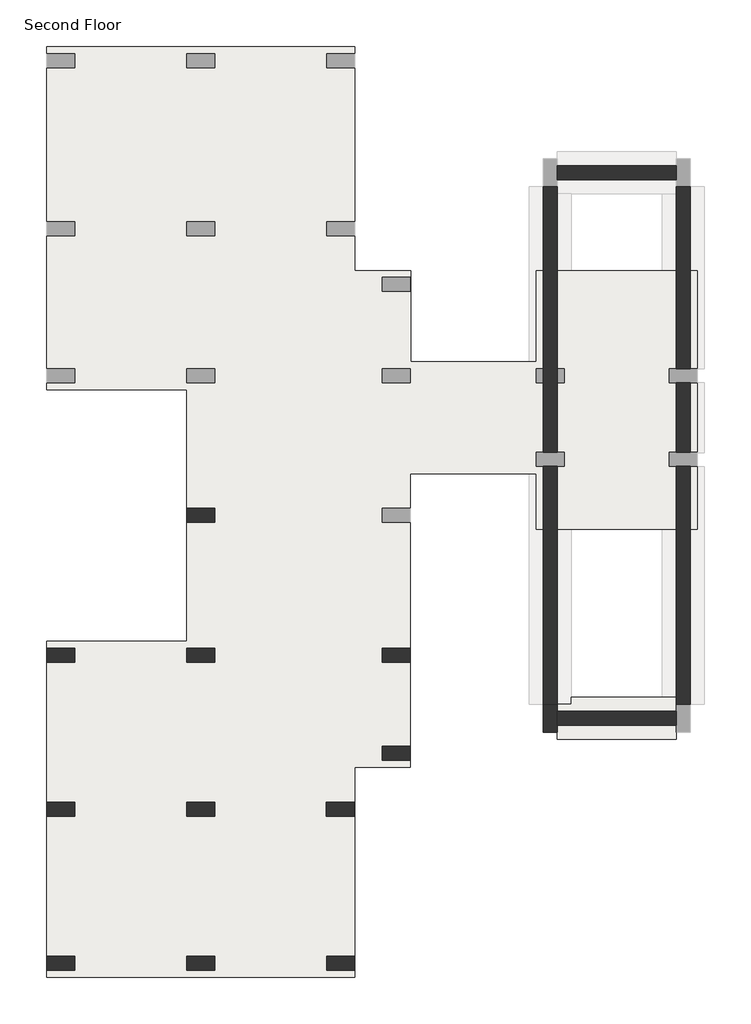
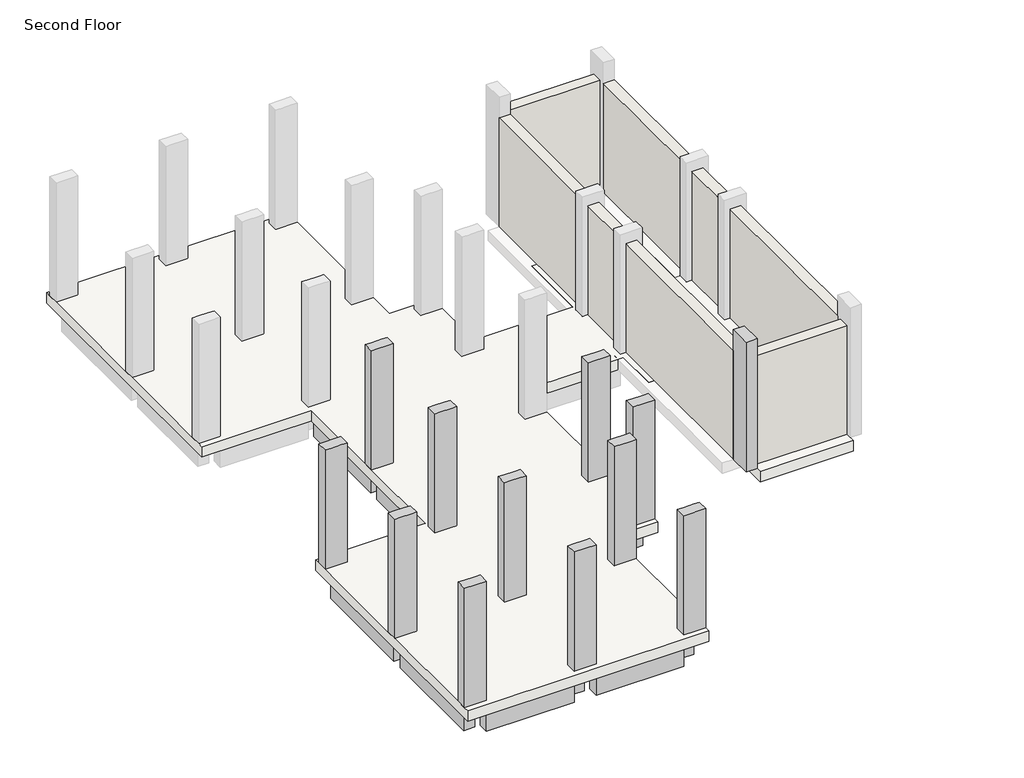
# One storey, part 1 of 2: 17 beams, 12 columns, 7 walls, 1 footing, 1 slab.
"""IFC4 building model written with IfcOpenShell, lengths in millimetres."""

from ifc_helpers import new_model, si_unit, frame, origin, place, context, project, spatial, polyline, outline, extrude, faceted_brep, element, save

model = new_model("IFC4")

# Units and contexts
model_context = context("Model", 3, world=origin())
ifc_project = project(units=[si_unit("LENGTHUNIT", "METRE", prefix="MILLI")], contexts=[model_context])

# Site, building, storey
site = spatial("IfcSite", under=ifc_project)
building = spatial("IfcBuilding", under=site)
storey = spatial("IfcBuildingStorey", under=building, Name="Second Floor", Elevation=3810.0)

# Beams
placement = place(None, origin())
element("IfcBeam", 1, ObjectType="Concrete-Rectangular Beam : 12 x 24", at=placement, inside=storey, context=model_context, shape_type="SweptSolid", body=[
    extrude(outline(polyline([(-10270.7073204, 16606.2572372), (-9965.9073204, 16606.2572372), (-9965.9073204, 13863.0572372), (-10270.7073204, 13863.0572372), (-10270.7073204, 16606.2572372)])), frame((0.0, 0.0, 2895.6), z_axis=(0.0, 0.0, 1.0), x_axis=(1.0, 0.0, 0.0)), (0.0, 0.0, 1.0), 609.6),
])
element("IfcBeam", 2, ObjectType="Concrete-Rectangular Beam : 12 x 24", at=placement, inside=storey, context=model_context, shape_type="SweptSolid", body=[
    extrude(outline(polyline([(-10270.7073204, 13558.2572372), (-9965.9073204, 13558.2572372), (-9965.9073204, 10815.0572372), (-10270.7073204, 10815.0572372), (-10270.7073204, 13558.2572372)])), frame((0.0, 0.0, 2895.6), z_axis=(0.0, 0.0, 1.0), x_axis=(1.0, 0.0, 0.0)), (0.0, 0.0, 1.0), 609.6),
])
element("IfcBeam", 3, ObjectType="Concrete-Rectangular Beam : 12 x 24", at=placement, inside=storey, context=model_context, shape_type="SweptSolid", body=[
    extrude(outline(polyline([(-9813.5073204, 10510.2572372), (-9813.5073204, 10815.0572372), (-6156.6500241, 10815.0572372), (-6156.6500241, 10510.2572372), (-9813.5073204, 10510.2572372)])), frame((0.0, 0.0, 2895.6), z_axis=(0.0, 0.0, 1.0), x_axis=(1.0, 0.0, 0.0)), (0.0, 0.0, 1.0), 609.6),
])
element("IfcBeam", 4, ObjectType="Concrete-Rectangular Beam : 12 x 24", at=placement, inside=storey, context=model_context, shape_type="SweptSolid", body=[
    extrude(outline(polyline([(-6156.6500241, 13863.0572372), (-6156.6500241, 13558.2572372), (-9813.5073204, 13558.2572372), (-9813.5073204, 13863.0572372), (-6156.6500241, 13863.0572372)])), frame((0.0, 0.0, 2895.6), z_axis=(0.0, 0.0, 1.0), x_axis=(1.0, 0.0, 0.0)), (0.0, 0.0, 1.0), 609.6),
])
element("IfcBeam", 5, ObjectType="Concrete-Rectangular Beam : 12 x 24", at=placement, inside=storey, context=model_context, shape_type="SweptSolid", body=[
    extrude(outline(polyline([(-12861.5073204, 10510.2572372), (-12861.5073204, 10815.0572372), (-10423.1073204, 10815.0572372), (-10423.1073204, 10510.2572372), (-12861.5073204, 10510.2572372)])), frame((0.0, 0.0, 2895.6), z_axis=(0.0, 0.0, 1.0), x_axis=(1.0, 0.0, 0.0)), (0.0, 0.0, 1.0), 609.6),
])
element("IfcBeam", 6, ObjectType="Concrete-Rectangular Beam : 12 x 24", at=placement, inside=storey, context=model_context, shape_type="SweptSolid", body=[
    extrude(outline(polyline([(-13318.7073204, 10510.2572372), (-13013.9073204, 10510.2572372), (-13013.9073204, 7462.2572372), (-13318.7073204, 7462.2572372), (-13318.7073204, 10510.2572372)])), frame((0.0, 0.0, 2895.6), z_axis=(0.0, 0.0, 1.0), x_axis=(1.0, 0.0, 0.0)), (0.0, 0.0, 1.0), 609.6),
])
element("IfcBeam", 7, ObjectType="Concrete-Rectangular Beam : 12 x 24", at=placement, inside=storey, context=model_context, shape_type="SweptSolid", body=[
    extrude(outline(polyline([(-10270.7073204, 10510.2572372), (-9965.9073204, 10510.2572372), (-9965.9073204, 7462.2572372), (-10270.7073204, 7462.2572372), (-10270.7073204, 10510.2572372)])), frame((0.0, 0.0, 2895.6), z_axis=(0.0, 0.0, 1.0), x_axis=(1.0, 0.0, 0.0)), (0.0, 0.0, 1.0), 609.6),
])
element("IfcBeam", 8, ObjectType="Concrete-Rectangular Beam : 12 x 24", at=placement, inside=storey, context=model_context, shape_type="SweptSolid", body=[
    extrude(outline(polyline([(-6004.2500241, 10510.2572372), (-5699.4500241, 10510.2572372), (-5699.4500241, 8681.4572372), (-6004.2500241, 8681.4572372), (-6004.2500241, 10510.2572372)])), frame((0.0, 0.0, 2895.6), z_axis=(0.0, 0.0, 1.0), x_axis=(1.0, 0.0, 0.0)), (0.0, 0.0, 1.0), 609.6),
])
element("IfcBeam", 9, ObjectType="Concrete-Rectangular Beam : 12 x 24", at=placement, inside=storey, context=model_context, shape_type="Brep", body=[
    faceted_brep([(-7223.4500241, 8681.4572372, 3505.2), (-7223.4500241, 8376.6572372, 3505.2), (-6918.6500241, 8376.6572372, 3505.2), (-6156.6500241, 8376.6572372, 3505.2), (-6156.6500241, 8681.4572372, 3505.2), (-7223.4500241, 8681.4572372, 2895.6), (-6156.6500241, 8681.4572372, 2895.6), (-7223.4500241, 8376.6572372, 2895.6), (-6156.6500241, 8376.6572372, 2895.6), (-6918.6500241, 8376.6572372, 2895.6)], [[[0, 1, 2, 3, 4]], [[5, 0, 4, 6]], [[7, 5, 6, 8, 9]], [[1, 7, 9, 8, 3, 2]], [[4, 3, 8, 6]], [[1, 0, 5, 7]]]),
])
element("IfcBeam", 10, ObjectType="Concrete-Rectangular Beam : 12 x 24", at=placement, inside=storey, context=model_context, shape_type="SweptSolid", body=[
    extrude(outline(polyline([(-7223.4500241, 8376.6572372), (-6918.6500241, 8376.6572372), (-6918.6500241, 7462.2572372), (-7223.4500241, 7462.2572372), (-7223.4500241, 8376.6572372)])), frame((0.0, 0.0, 2895.6), z_axis=(0.0, 0.0, 1.0), x_axis=(1.0, 0.0, 0.0)), (0.0, 0.0, 1.0), 609.6),
])
element("IfcBeam", 11, ObjectType="Concrete-Rectangular Beam : 12 x 24", at=placement, inside=storey, context=model_context, shape_type="SweptSolid", body=[
    extrude(outline(polyline([(-7375.8500241, 7462.2572372), (-7375.8500241, 7157.4572372), (-9813.5073204, 7157.4572372), (-9813.5073204, 7462.2572372), (-7375.8500241, 7462.2572372)])), frame((0.0, 0.0, 2895.6), z_axis=(0.0, 0.0, 1.0), x_axis=(1.0, 0.0, 0.0)), (0.0, 0.0, 1.0), 609.6),
])
element("IfcBeam", 12, ObjectType="Concrete-Rectangular Beam : 12 x 24", at=placement, inside=storey, context=model_context, shape_type="SweptSolid", body=[
    extrude(outline(polyline([(-10423.1073204, 7462.2572372), (-10423.1073204, 7157.4572372), (-12861.5073204, 7157.4572372), (-12861.5073204, 7462.2572372), (-10423.1073204, 7462.2572372)])), frame((0.0, 0.0, 2895.6), z_axis=(0.0, 0.0, 1.0), x_axis=(1.0, 0.0, 0.0)), (0.0, 0.0, 1.0), 609.6),
])
element("IfcBeam", 13, ObjectType="Concrete-Rectangular Beam : 12 x 24", at=placement, inside=storey, context=model_context, shape_type="SweptSolid", body=[
    extrude(outline(polyline([(-13318.7073204, 7157.4572372), (-13013.9073204, 7157.4572372), (-13013.9073204, 4109.4572372), (-13318.7073204, 4109.4572372), (-13318.7073204, 7157.4572372)])), frame((0.0, 0.0, 2895.6), z_axis=(0.0, 0.0, 1.0), x_axis=(1.0, 0.0, 0.0)), (0.0, 0.0, 1.0), 609.6),
])
element("IfcBeam", 14, ObjectType="Concrete-Rectangular Beam : 12 x 24", at=placement, inside=storey, context=model_context, shape_type="SweptSolid", body=[
    extrude(outline(polyline([(-10270.7073204, 7157.4572372), (-9965.9073204, 7157.4572372), (-9965.9073204, 4109.4572372), (-10270.7073204, 4109.4572372), (-10270.7073204, 7157.4572372)])), frame((0.0, 0.0, 2895.6), z_axis=(0.0, 0.0, 1.0), x_axis=(1.0, 0.0, 0.0)), (0.0, 0.0, 1.0), 609.6),
])
element("IfcBeam", 15, ObjectType="Concrete-Rectangular Beam : 12 x 24", at=placement, inside=storey, context=model_context, shape_type="SweptSolid", body=[
    extrude(outline(polyline([(-7223.4500241, 7157.4572372), (-6918.6500241, 7157.4572372), (-6918.6500241, 4109.4572372), (-7223.4500241, 4109.4572372), (-7223.4500241, 7157.4572372)])), frame((0.0, 0.0, 2895.6), z_axis=(0.0, 0.0, 1.0), x_axis=(1.0, 0.0, 0.0)), (0.0, 0.0, 1.0), 609.6),
])
element("IfcBeam", 16, ObjectType="Concrete-Rectangular Beam : 12 x 24", at=placement, inside=storey, context=model_context, shape_type="SweptSolid", body=[
    extrude(outline(polyline([(-9813.5073204, 3804.6572372), (-9813.5073204, 4109.4572372), (-7375.1073204, 4109.4572372), (-7375.1073204, 3804.6572372), (-9813.5073204, 3804.6572372)])), frame((0.0, 0.0, 2895.6), z_axis=(0.0, 0.0, 1.0), x_axis=(1.0, 0.0, 0.0)), (0.0, 0.0, 1.0), 609.6),
])
element("IfcBeam", 17, ObjectType="Concrete-Rectangular Beam : 12 x 24", at=placement, inside=storey, context=model_context, shape_type="SweptSolid", body=[
    extrude(outline(polyline([(-12861.5073204, 3804.6572372), (-12861.5073204, 4109.4572372), (-10423.1073204, 4109.4572372), (-10423.1073204, 3804.6572372), (-12861.5073204, 3804.6572372)])), frame((0.0, 0.0, 2895.6), z_axis=(0.0, 0.0, 1.0), x_axis=(1.0, 0.0, 0.0)), (0.0, 0.0, 1.0), 609.6),
])

# Columns
element("IfcColumn", 18, ObjectType="Concrete-Rectangular-Column : 12 x 24", at=placement, inside=storey, context=model_context, shape_type="Brep", body=[
    faceted_brep([(-10423.1073204, 13863.0572372, 3810.0), (-9813.5073204, 13863.0572372, 3810.0), (-9813.5073204, 13558.2572372, 3810.0), (-10423.1073204, 13558.2572372, 3810.0), (-10423.1073204, 13863.0572372, 7315.2), (-10270.7073204, 13863.0572372, 7315.2), (-9965.9073204, 13863.0572372, 7315.2), (-9813.5073204, 13863.0572372, 7315.2), (-9813.5073204, 13863.0572372, 6705.6), (-9813.5073204, 13558.2572372, 7315.2), (-9813.5073204, 13558.2572372, 6705.6), (-9965.9073204, 13558.2572372, 7315.2), (-10270.7073204, 13558.2572372, 7315.2), (-10423.1073204, 13558.2572372, 7315.2)], [[[0, 1, 2, 3]], [[4, 5, 6, 7, 8, 1, 0]], [[7, 9, 10, 2, 1, 8]], [[9, 11, 12, 13, 3, 2, 10]], [[13, 4, 0, 3]], [[4, 13, 12, 11, 9, 7, 6, 5]]]),
])
element("IfcColumn", 19, ObjectType="Concrete-Rectangular-Column : 12 x 24", at=placement, inside=storey, context=model_context, shape_type="Brep", body=[
    faceted_brep([(-13471.1073204, 10815.0572372, 3810.0), (-12861.5073204, 10815.0572372, 3810.0), (-12861.5073204, 10510.2572372, 3810.0), (-13471.1073204, 10510.2572372, 3810.0), (-13471.1073204, 10815.0572372, 7315.2), (-12861.5073204, 10815.0572372, 7315.2), (-12861.5073204, 10815.0572372, 6705.6), (-12861.5073204, 10510.2572372, 7315.2), (-12861.5073204, 10510.2572372, 6705.6), (-13013.9073204, 10510.2572372, 7315.2), (-13318.7073204, 10510.2572372, 7315.2), (-13471.1073204, 10510.2572372, 7315.2)], [[[0, 1, 2, 3]], [[4, 5, 6, 1, 0]], [[5, 7, 8, 2, 1, 6]], [[7, 9, 10, 11, 3, 2, 8]], [[11, 4, 0, 3]], [[4, 11, 10, 9, 7, 5]]]),
])
element("IfcColumn", 20, ObjectType="Concrete-Rectangular-Column : 12 x 24", at=placement, inside=storey, context=model_context, shape_type="Brep", body=[
    faceted_brep([(-10423.1073204, 10815.0572372, 3810.0), (-9813.5073204, 10815.0572372, 3810.0), (-9813.5073204, 10510.2572372, 3810.0), (-10423.1073204, 10510.2572372, 3810.0), (-10423.1073204, 10815.0572372, 7315.2), (-10270.7073204, 10815.0572372, 7315.2), (-9965.9073204, 10815.0572372, 7315.2), (-9813.5073204, 10815.0572372, 7315.2), (-9813.5073204, 10815.0572372, 6705.6), (-10423.1073204, 10815.0572372, 6705.6), (-9813.5073204, 10510.2572372, 7315.2), (-9813.5073204, 10510.2572372, 6705.6), (-9965.9073204, 10510.2572372, 7315.2), (-10270.7073204, 10510.2572372, 7315.2), (-10423.1073204, 10510.2572372, 7315.2), (-10423.1073204, 10510.2572372, 6705.6)], [[[0, 1, 2, 3]], [[4, 5, 6, 7, 8, 1, 0, 9]], [[7, 10, 11, 2, 1, 8]], [[10, 12, 13, 14, 15, 3, 2, 11]], [[14, 4, 9, 0, 3, 15]], [[4, 14, 13, 12, 10, 7, 6, 5]]]),
])
element("IfcColumn", 21, ObjectType="Concrete-Rectangular-Column : 12 x 24", at=placement, inside=storey, context=model_context, shape_type="Brep", body=[
    faceted_brep([(-6156.6500241, 10815.0572372, 3810.0), (-5547.0500241, 10815.0572372, 3810.0), (-5547.0500241, 10510.2572372, 3810.0), (-6156.6500241, 10510.2572372, 3810.0), (-6156.6500241, 10815.0572372, 7315.2), (-6004.2500241, 10815.0572372, 7315.2), (-5699.4500241, 10815.0572372, 7315.2), (-5547.0500241, 10815.0572372, 7315.2), (-6156.6500241, 10815.0572372, 6705.6), (-5547.0500241, 10510.2572372, 7315.2), (-5699.4500241, 10510.2572372, 7315.2), (-6004.2500241, 10510.2572372, 7315.2), (-6156.6500241, 10510.2572372, 7315.2), (-6156.6500241, 10510.2572372, 6705.6)], [[[0, 1, 2, 3]], [[4, 5, 6, 7, 1, 0, 8]], [[7, 9, 2, 1]], [[9, 10, 11, 12, 13, 3, 2]], [[12, 4, 8, 0, 3, 13]], [[4, 12, 11, 10, 9, 7, 6, 5]]]),
])
element("IfcColumn", 22, ObjectType="Concrete-Rectangular-Column : 12 x 24", at=placement, inside=storey, context=model_context, shape_type="Brep", body=[
    faceted_brep([(-6156.6500241, 8681.4572372, 3810.0), (-5547.0500241, 8681.4572372, 3810.0), (-5547.0500241, 8376.6572372, 3810.0), (-6156.6500241, 8376.6572372, 3810.0), (-6156.6500241, 8681.4572372, 7315.2), (-6004.2500241, 8681.4572372, 7315.2), (-5699.4500241, 8681.4572372, 7315.2), (-5547.0500241, 8681.4572372, 7315.2), (-6156.6500241, 8681.4572372, 6705.6), (-5547.0500241, 8376.6572372, 7315.2), (-6156.6500241, 8376.6572372, 7315.2), (-6156.6500241, 8376.6572372, 6705.6)], [[[0, 1, 2, 3]], [[4, 5, 6, 7, 1, 0, 8]], [[7, 9, 2, 1]], [[9, 10, 11, 3, 2]], [[10, 4, 8, 0, 3, 11]], [[4, 10, 9, 7, 6, 5]]]),
])
element("IfcColumn", 23, ObjectType="Concrete-Rectangular-Column : 12 x 24", at=placement, inside=storey, context=model_context, shape_type="Brep", body=[
    faceted_brep([(-7375.8500241, 7462.2572372, 3810.0), (-6766.2500241, 7462.2572372, 3810.0), (-6766.2500241, 7157.4572372, 3810.0), (-7375.8500241, 7157.4572372, 3810.0), (-7375.8500241, 7462.2572372, 7315.2), (-7223.4500241, 7462.2572372, 7315.2), (-6918.6500241, 7462.2572372, 7315.2), (-6766.2500241, 7462.2572372, 7315.2), (-7375.8500241, 7462.2572372, 6705.6), (-6766.2500241, 7157.4572372, 7315.2), (-6918.6500241, 7157.4572372, 7315.2), (-7223.4500241, 7157.4572372, 7315.2), (-7375.8500241, 7157.4572372, 7315.2), (-7375.8500241, 7157.4572372, 6705.6)], [[[0, 1, 2, 3]], [[4, 5, 6, 7, 1, 0, 8]], [[7, 9, 2, 1]], [[9, 10, 11, 12, 13, 3, 2]], [[12, 4, 8, 0, 3, 13]], [[4, 12, 11, 10, 9, 7, 6, 5]]]),
])
element("IfcColumn", 24, ObjectType="Concrete-Rectangular-Column : 12 x 24", at=placement, inside=storey, context=model_context, shape_type="Brep", body=[
    faceted_brep([(-10423.1073204, 7462.2572372, 3810.0), (-9813.5073204, 7462.2572372, 3810.0), (-9813.5073204, 7157.4572372, 3810.0), (-10423.1073204, 7157.4572372, 3810.0), (-10423.1073204, 7462.2572372, 7315.2), (-10270.7073204, 7462.2572372, 7315.2), (-9965.9073204, 7462.2572372, 7315.2), (-9813.5073204, 7462.2572372, 7315.2), (-9813.5073204, 7462.2572372, 6705.6), (-10423.1073204, 7462.2572372, 6705.6), (-9813.5073204, 7157.4572372, 7315.2), (-9813.5073204, 7157.4572372, 6705.6), (-9965.9073204, 7157.4572372, 7315.2), (-10270.7073204, 7157.4572372, 7315.2), (-10423.1073204, 7157.4572372, 7315.2), (-10423.1073204, 7157.4572372, 6705.6)], [[[0, 1, 2, 3]], [[4, 5, 6, 7, 8, 1, 0, 9]], [[7, 10, 11, 2, 1, 8]], [[10, 12, 13, 14, 15, 3, 2, 11]], [[14, 4, 9, 0, 3, 15]], [[4, 14, 13, 12, 10, 7, 6, 5]]]),
])
element("IfcColumn", 25, ObjectType="Concrete-Rectangular-Column : 12 x 24", at=placement, inside=storey, context=model_context, shape_type="Brep", body=[
    faceted_brep([(-13471.1073204, 7462.2572372, 3810.0), (-12861.5073204, 7462.2572372, 3810.0), (-12861.5073204, 7157.4572372, 3810.0), (-13471.1073204, 7157.4572372, 3810.0), (-13471.1073204, 7462.2572372, 7315.2), (-13318.7073204, 7462.2572372, 7315.2), (-13013.9073204, 7462.2572372, 7315.2), (-12861.5073204, 7462.2572372, 7315.2), (-12861.5073204, 7462.2572372, 6705.6), (-12861.5073204, 7157.4572372, 7315.2), (-12861.5073204, 7157.4572372, 6705.6), (-13013.9073204, 7157.4572372, 7315.2), (-13318.7073204, 7157.4572372, 7315.2), (-13471.1073204, 7157.4572372, 7315.2)], [[[0, 1, 2, 3]], [[4, 5, 6, 7, 8, 1, 0]], [[7, 9, 10, 2, 1, 8]], [[9, 11, 12, 13, 3, 2, 10]], [[13, 4, 0, 3]], [[4, 13, 12, 11, 9, 7, 6, 5]]]),
])
element("IfcColumn", 26, ObjectType="Concrete-Rectangular-Column : 12 x 24", at=placement, inside=storey, context=model_context, shape_type="Brep", body=[
    faceted_brep([(-13471.1073204, 4109.4572372, 3810.0), (-12861.5073204, 4109.4572372, 3810.0), (-12861.5073204, 3804.6572372, 3810.0), (-13471.1073204, 3804.6572372, 3810.0), (-13471.1073204, 4109.4572372, 7315.2), (-13318.7073204, 4109.4572372, 7315.2), (-13013.9073204, 4109.4572372, 7315.2), (-12861.5073204, 4109.4572372, 7315.2), (-12861.5073204, 4109.4572372, 6705.6), (-12861.5073204, 3804.6572372, 7315.2), (-12861.5073204, 3804.6572372, 6705.6), (-13471.1073204, 3804.6572372, 7315.2)], [[[0, 1, 2, 3]], [[4, 5, 6, 7, 8, 1, 0]], [[7, 9, 10, 2, 1, 8]], [[9, 11, 3, 2, 10]], [[11, 4, 0, 3]], [[4, 11, 9, 7, 6, 5]]]),
])
element("IfcColumn", 27, ObjectType="Concrete-Rectangular-Column : 12 x 24", at=placement, inside=storey, context=model_context, shape_type="Brep", body=[
    faceted_brep([(-10423.1073204, 4109.4572372, 3810.0), (-9813.5073204, 4109.4572372, 3810.0), (-9813.5073204, 3804.6572372, 3810.0), (-10423.1073204, 3804.6572372, 3810.0), (-10423.1073204, 4109.4572372, 7315.2), (-10270.7073204, 4109.4572372, 7315.2), (-9965.9073204, 4109.4572372, 7315.2), (-9813.5073204, 4109.4572372, 7315.2), (-9813.5073204, 4109.4572372, 6705.6), (-10423.1073204, 4109.4572372, 6705.6), (-9813.5073204, 3804.6572372, 7315.2), (-9813.5073204, 3804.6572372, 6705.6), (-10423.1073204, 3804.6572372, 7315.2), (-10423.1073204, 3804.6572372, 6705.6)], [[[0, 1, 2, 3]], [[4, 5, 6, 7, 8, 1, 0, 9]], [[7, 10, 11, 2, 1, 8]], [[10, 12, 13, 3, 2, 11]], [[12, 4, 9, 0, 3, 13]], [[4, 12, 10, 7, 6, 5]]]),
])
element("IfcColumn", 28, ObjectType="Concrete-Rectangular-Column : 12 x 24", at=placement, inside=storey, context=model_context, shape_type="Brep", body=[
    faceted_brep([(-7375.1073204, 4109.4572372, 3810.0), (-6765.5073204, 4109.4572372, 3810.0), (-6765.5073204, 3804.6572372, 3810.0), (-7375.1073204, 3804.6572372, 3810.0), (-7375.1073204, 4109.4572372, 7315.2), (-7223.4500241, 4109.4572372, 7315.2), (-6918.6500241, 4109.4572372, 7315.2), (-6765.5073204, 4109.4572372, 7315.2), (-7375.1073204, 4109.4572372, 6705.6), (-6765.5073204, 3804.6572372, 7315.2), (-7375.1073204, 3804.6572372, 7315.2), (-7375.1073204, 3804.6572372, 6705.6)], [[[0, 1, 2, 3]], [[4, 5, 6, 7, 1, 0, 8]], [[7, 9, 2, 1]], [[9, 10, 11, 3, 2]], [[10, 4, 8, 0, 3, 11]], [[4, 10, 9, 7, 6, 5]]]),
])
element("IfcColumn", 29, ObjectType="Concrete-Rectangular-Column : 12 x 24", at=placement, inside=storey, context=model_context, shape_type="Brep", body=[
    faceted_brep([(-2346.6500241, 9595.8572372, 3810.0), (-2346.6500241, 9443.4572372, 3810.0), (-2346.6500241, 9138.6572372, 3810.0), (-2346.6500241, 8986.2572372, 3810.0), (-2651.4500241, 8986.2572372, 3810.0), (-2651.4500241, 9595.8572372, 3810.0), (-2346.6500241, 9595.8572372, 7620.0), (-2346.6500241, 8986.2572372, 7620.0), (-2346.6500241, 9595.8572372, 7010.4), (-2651.4500241, 8986.2572372, 7620.0), (-2651.4500241, 9595.8572372, 7620.0), (-2651.4500241, 9595.8572372, 7010.4)], [[[0, 1, 2, 3, 4, 5]], [[6, 7, 3, 2, 1, 0, 8]], [[7, 9, 4, 3]], [[9, 10, 11, 5, 4]], [[10, 6, 8, 0, 5, 11]], [[6, 10, 9, 7]]]),
])

# Footing
element("IfcFooting", 30, ObjectType="Bearing Footing - 36\" x 12\"", at=placement, inside=storey, context=model_context, shape_type="Brep", body=[
    faceted_brep([(242.3860546, 8833.8572372, 3810.0), (242.3860546, 8833.8572372, 3505.2), (242.3860546, 9595.8572372, 3505.2), (242.3860546, 9748.2572372, 3505.2), (242.3860546, 9748.2572372, 3810.0), (242.3860546, 9595.8572372, 3810.0), (-2346.6500241, 8833.8572372, 3505.2), (-2346.6500241, 8833.8572372, 3810.0), (-2346.6500241, 9595.8572372, 3810.0), (-2346.6500241, 9595.8572372, 3505.2), (-62.4139454, 9748.2572372, 3810.0), (-2041.8500241, 9748.2572372, 3810.0), (-2041.8500241, 9595.8572372, 3810.0), (-2041.8500241, 9595.8572372, 3505.2), (-2041.8500241, 9748.2572372, 3505.2), (-62.4139454, 9748.2572372, 3505.2)], [[[0, 1, 2, 3, 4, 5]], [[6, 7, 8, 9]], [[7, 0, 5, 4, 10, 11, 12, 8]], [[1, 0, 7, 6]], [[3, 2, 1, 6, 9, 13, 14, 15]], [[4, 3, 15, 14, 11, 10]], [[12, 13, 9, 8]], [[13, 12, 11, 14]]]),
])

# Slab
element("IfcSlab", 31, ObjectType="Generic - 12\"", at=placement, inside=storey, context=model_context, shape_type="Brep", body=[
    faceted_brep([(-6765.5073204, 23921.4572372, 3505.2), (-6765.5073204, 23769.0572372, 3505.2), (-6765.5073204, 23464.2572372, 3505.2), (-6765.5073204, 20111.4572372, 3505.2), (-6765.5073204, 19806.6572372, 3505.2), (-6765.5073204, 19044.6572372, 3505.2), (-5546.3073204, 19044.6572372, 3505.2), (-5546.3073204, 17063.4572372, 3505.2), (-2803.8500241, 17063.4572372, 3505.2), (-2803.8500241, 19044.6572372, 3505.2), (699.5860546, 19044.6572372, 3505.2), (699.5860546, 16911.0572372, 3505.2), (699.5860546, 16606.2572372, 3505.2), (699.5860546, 15082.2572372, 3505.2), (699.5860546, 14777.4572372, 3505.2), (699.5860546, 13405.8572372, 3505.2), (-2803.8500241, 13405.8572372, 3505.2), (-2803.8500241, 14625.0572372, 3505.2), (-5547.0500241, 14625.0572372, 3505.2), (-5547.0500241, 13863.0572372, 3505.2), (-5547.0500241, 13558.2572372, 3505.2), (-5547.0500241, 10815.0572372, 3505.2), (-5547.0500241, 10510.2572372, 3505.2), (-5547.0500241, 8681.4572372, 3505.2), (-5547.0500241, 8376.6572372, 3505.2), (-5547.0500241, 8224.2572372, 3505.2), (-6765.5073204, 8224.2572372, 3505.2), (-6765.5073204, 4109.4572372, 3505.2), (-6765.5073204, 3804.6572372, 3505.2), (-6765.5073204, 3652.2572372, 3505.2), (-13471.1073204, 3652.2572372, 3505.2), (-13471.1073204, 3804.6572372, 3505.2), (-13471.1073204, 4109.4572372, 3505.2), (-13471.1073204, 7157.4572372, 3505.2), (-13471.1073204, 7462.2572372, 3505.2), (-13471.1073204, 10510.2572372, 3505.2), (-13471.1073204, 10815.0572372, 3505.2), (-13471.1073204, 10967.4572372, 3505.2), (-10423.1073204, 10967.4572372, 3505.2), (-10423.1073204, 13558.2572372, 3505.2), (-10423.1073204, 13863.0572372, 3505.2), (-10423.1073204, 16453.8572372, 3505.2), (-13471.1073204, 16453.8572372, 3505.2), (-13471.1073204, 16606.2572372, 3505.2), (-13471.1073204, 16911.0572372, 3505.2), (-13471.1073204, 19806.6572372, 3505.2), (-13471.1073204, 20111.4572372, 3505.2), (-13471.1073204, 23464.2572372, 3505.2), (-13471.1073204, 23769.0572372, 3505.2), (-13471.1073204, 23921.4572372, 3505.2), (-6765.5073204, 23921.4572372, 3810.0), (-13471.1073204, 23921.4572372, 3810.0), (-13471.1073204, 23769.0572372, 3810.0), (-13471.1073204, 23464.2572372, 3810.0), (-13471.1073204, 20111.4572372, 3810.0), (-13471.1073204, 19806.6572372, 3810.0), (-13471.1073204, 16911.0572372, 3810.0), (-13471.1073204, 16606.2572372, 3810.0), (-13471.1073204, 16453.8572372, 3810.0), (-10423.1073204, 16453.8572372, 3810.0), (-10423.1073204, 13863.0572372, 3810.0), (-10423.1073204, 13558.2572372, 3810.0), (-10423.1073204, 10967.4572372, 3810.0), (-13471.1073204, 10967.4572372, 3810.0), (-13471.1073204, 10815.0572372, 3810.0), (-13471.1073204, 10510.2572372, 3810.0), (-13471.1073204, 7462.2572372, 3810.0), (-13471.1073204, 7157.4572372, 3810.0), (-13471.1073204, 4109.4572372, 3810.0), (-13471.1073204, 3804.6572372, 3810.0), (-13471.1073204, 3652.2572372, 3810.0), (-6765.5073204, 3652.2572372, 3810.0), (-6765.5073204, 3804.6572372, 3810.0), (-6765.5073204, 4109.4572372, 3810.0), (-6765.5073204, 8224.2572372, 3810.0), (-5547.0500241, 8224.2572372, 3810.0), (-5547.0500241, 8376.6572372, 3810.0), (-5547.0500241, 8681.4572372, 3810.0), (-5547.0500241, 10510.2572372, 3810.0), (-5547.0500241, 10815.0572372, 3810.0), (-5547.0500241, 13558.2572372, 3810.0), (-5547.0500241, 13863.0572372, 3810.0), (-5547.0500241, 14625.0572372, 3810.0), (-2803.8500241, 14625.0572372, 3810.0), (-2803.8500241, 13405.8572372, 3810.0), (699.5860546, 13405.8572372, 3810.0), (699.5860546, 14777.4572372, 3810.0), (699.5860546, 15082.2572372, 3810.0), (699.5860546, 16606.2572372, 3810.0), (699.5860546, 16911.0572372, 3810.0), (699.5860546, 19044.6572372, 3810.0), (-2803.8500241, 19044.6572372, 3810.0), (-2803.8500241, 17063.4572372, 3810.0), (-5546.3073204, 17063.4572372, 3810.0), (-5546.3073204, 19044.6572372, 3810.0), (-6765.5073204, 19044.6572372, 3810.0), (-6765.5073204, 19806.6572372, 3810.0), (-6765.5073204, 20111.4572372, 3810.0), (-6765.5073204, 23464.2572372, 3810.0), (-6765.5073204, 23769.0572372, 3810.0)], [[[0, 1, 2, 3, 4, 5, 6, 7, 8, 9, 10, 11, 12, 13, 14, 15, 16, 17, 18, 19, 20, 21, 22, 23, 24, 25, 26, 27, 28, 29, 30, 31, 32, 33, 34, 35, 36, 37, 38, 39, 40, 41, 42, 43, 44, 45, 46, 47, 48, 49]], [[50, 51, 52, 53, 54, 55, 56, 57, 58, 59, 60, 61, 62, 63, 64, 65, 66, 67, 68, 69, 70, 71, 72, 73, 74, 75, 76, 77, 78, 79, 80, 81, 82, 83, 84, 85, 86, 87, 88, 89, 90, 91, 92, 93, 94, 95, 96, 97, 98, 99]], [[5, 4, 3, 2, 1, 0, 50, 99, 98, 97, 96, 95]], [[6, 5, 95, 94]], [[7, 6, 94, 93]], [[8, 7, 93, 92]], [[9, 8, 92, 91]], [[10, 9, 91, 90]], [[15, 14, 13, 12, 11, 10, 90, 89, 88, 87, 86, 85]], [[16, 15, 85, 84]], [[17, 16, 84, 83]], [[18, 17, 83, 82]], [[25, 24, 23, 22, 21, 20, 19, 18, 82, 81, 80, 79, 78, 77, 76, 75]], [[26, 25, 75, 74]], [[29, 28, 27, 26, 74, 73, 72, 71]], [[30, 29, 71, 70]], [[37, 36, 35, 34, 33, 32, 31, 30, 70, 69, 68, 67, 66, 65, 64, 63]], [[38, 37, 63, 62]], [[41, 40, 39, 38, 62, 61, 60, 59]], [[42, 41, 59, 58]], [[49, 48, 47, 46, 45, 44, 43, 42, 58, 57, 56, 55, 54, 53, 52, 51]], [[0, 49, 51, 50]]]),
])

# Walls
element("IfcWall", 32, ObjectType="Core-Shaft - 12\" Concrete", at=placement, inside=storey, context=model_context, shape_type="SweptSolid", body=[
    extrude(outline(polyline([(242.3860546, 21025.8572372), (-2346.6500241, 21025.8572372), (-2346.6500241, 21330.6572372), (242.3860546, 21330.6572372), (242.3860546, 21025.8572372)])), frame((0.0, 0.0, 3810.0), z_axis=(0.0, 0.0, 1.0), x_axis=(1.0, 0.0, 0.0)), (0.0, 0.0, 1.0), 3200.4),
])
element("IfcWall", 33, ObjectType="Core-Shaft - 12\" Concrete", at=placement, inside=storey, context=model_context, shape_type="SweptSolid", body=[
    extrude(outline(polyline([(242.3860546, 16911.0572372), (242.3860546, 20873.4572372), (547.1860546, 20873.4572372), (547.1860546, 16911.0572372), (242.3860546, 16911.0572372)])), frame((0.0, 0.0, 3810.0), z_axis=(0.0, 0.0, 1.0), x_axis=(1.0, 0.0, 0.0)), (0.0, 0.0, 1.0), 3200.4),
])
element("IfcWall", 34, ObjectType="Core-Shaft - 12\" Concrete", at=placement, inside=storey, context=model_context, shape_type="SweptSolid", body=[
    extrude(outline(polyline([(242.3860546, 15082.2572372), (242.3860546, 16606.2572372), (547.1860546, 16606.2572372), (547.1860546, 15082.2572372), (242.3860546, 15082.2572372)])), frame((0.0, 0.0, 3810.0), z_axis=(0.0, 0.0, 1.0), x_axis=(1.0, 0.0, 0.0)), (0.0, 0.0, 1.0), 3200.4),
])
element("IfcWall", 35, ObjectType="Core-Shaft - 12\" Concrete", at=placement, inside=storey, context=model_context, shape_type="SweptSolid", body=[
    extrude(outline(polyline([(242.3860546, 9595.8572372), (242.3860546, 14777.4572372), (547.1860546, 14777.4572372), (547.1860546, 9595.8572372), (242.3860546, 9595.8572372)])), frame((0.0, 0.0, 3810.0), z_axis=(0.0, 0.0, 1.0), x_axis=(1.0, 0.0, 0.0)), (0.0, 0.0, 1.0), 3200.4),
])
element("IfcWall", 36, ObjectType="Core-Shaft - 12\" Concrete", at=placement, inside=storey, context=model_context, shape_type="SweptSolid", body=[
    extrude(outline(polyline([(-2346.6500241, 9443.4572372), (242.3860546, 9443.4572372), (242.3860546, 9138.6572372), (-2346.6500241, 9138.6572372), (-2346.6500241, 9443.4572372)])), frame((0.0, 0.0, 3810.0), z_axis=(0.0, 0.0, 1.0), x_axis=(1.0, 0.0, 0.0)), (0.0, 0.0, 1.0), 3200.4),
])
element("IfcWall", 37, ObjectType="Core-Shaft - 12\" Concrete", at=placement, inside=storey, context=model_context, shape_type="SweptSolid", body=[
    extrude(outline(polyline([(-2346.6500241, 14777.4572372), (-2346.6500241, 9595.8572372), (-2651.4500241, 9595.8572372), (-2651.4500241, 14777.4572372), (-2346.6500241, 14777.4572372)])), frame((0.0, 0.0, 3810.0), z_axis=(0.0, 0.0, 1.0), x_axis=(1.0, 0.0, 0.0)), (0.0, 0.0, 1.0), 3200.4),
])
element("IfcWall", 38, ObjectType="Core-Shaft - 12\" Concrete", at=placement, inside=storey, context=model_context, shape_type="Brep", body=[
    faceted_brep([(-2346.6500241, 15082.2572372, 3810.0), (-2346.6500241, 16606.2572372, 3810.0), (-2346.6500241, 16911.0572372, 3810.0), (-2346.6500241, 20873.4572372, 3810.0), (-2346.6500241, 20873.4572372, 7010.4), (-2346.6500241, 16911.0572372, 7010.4), (-2346.6500241, 16606.2572372, 7010.4), (-2346.6500241, 15082.2572372, 7010.4), (-2651.4500241, 15082.2572372, 3810.0), (-2651.4500241, 15082.2572372, 7010.4), (-2651.4500241, 16606.2572372, 7010.4), (-2651.4500241, 16911.0572372, 7010.4), (-2651.4500241, 20873.4572372, 7010.4), (-2651.4500241, 20873.4572372, 3810.0), (-2651.4500241, 16911.0572372, 3810.0), (-2651.4500241, 16606.2572372, 3810.0)], [[[0, 1, 2, 3, 4, 5, 6, 7]], [[8, 9, 10, 11, 12, 13, 14, 15]], [[3, 2, 1, 0, 8, 15, 14, 13]], [[4, 3, 13, 12]], [[7, 6, 5, 4, 12, 11, 10, 9]], [[0, 7, 9, 8]]]),
])

save(model, "model.ifc")
